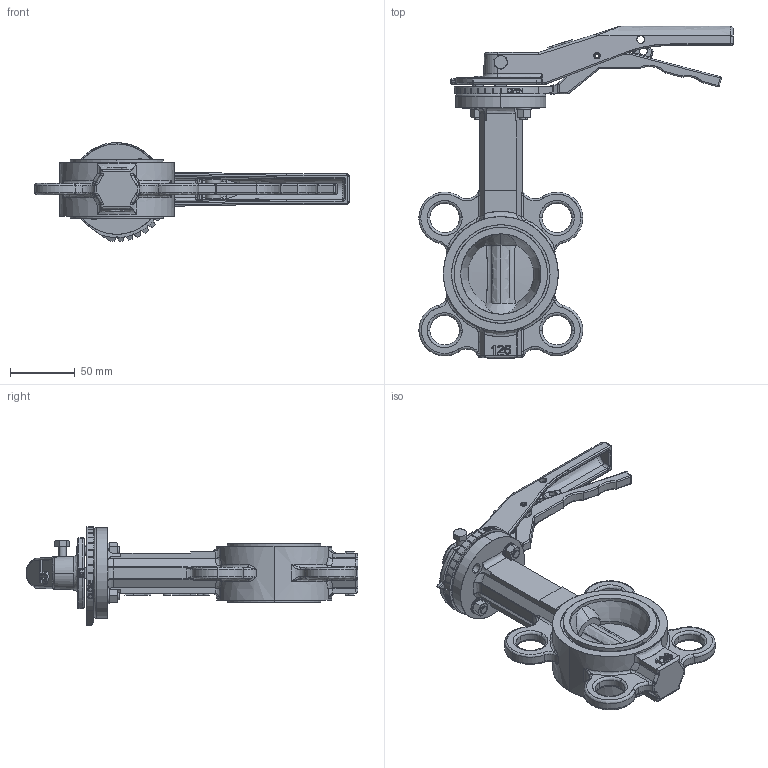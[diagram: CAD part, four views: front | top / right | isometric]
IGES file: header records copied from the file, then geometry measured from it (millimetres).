
Start section: SolidWorks IGES file using analytic representation for surfaces
Global section: file name: H:\BE BIBLIOTHEQUE 3D\Projet_Biblio3D_2016\FSK\VPE\VPE-02\DN50\VPE-02 DN 50.IGS; native system: SolidWorks 2014; preprocessor: SolidWorks 2014; author: c.maitre; date: 160928.152955; units: millimetre
Bounding box: 243.49 x 257.2 x 76.45 mm (x, y, z)
Surface area: 131510.8 mm2 (no closed solid volume)
Topology: 0 solids, 0 shells, 1485 faces, 18913 edges, 18847 vertices
Faces by surface type: bspline 902, revolution 583
